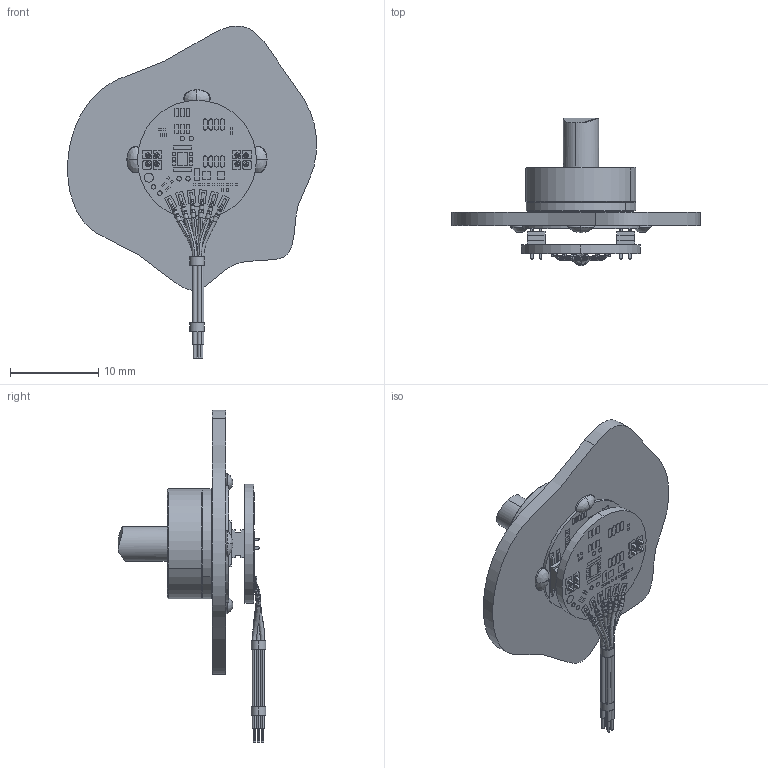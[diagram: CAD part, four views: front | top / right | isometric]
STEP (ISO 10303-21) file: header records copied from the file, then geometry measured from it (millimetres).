
FILE_DESCRIPTION (( 'STEP AP214' ), '1' );
FILE_NAME ('VL-13 ICD.STEP', '2025-02-18T12:47:03', ( '' ), ( '' ), 'SwSTEP 2.0', 'SolidWorks 2022', '' );
FILE_SCHEMA (( 'AUTOMOTIVE_DESIGN' ));
Length unit declared in the file: millimetre
Products named in the file (13): MP-03772; EA-00192; VL-13 cable-6-wires; VLP-13 Body sample; VL-13 ICD Glue tip; EA-00193; PB-00194_F-4 C-1; VL-13 ICD; VLP-13 Assy_With cable; PB-00193_Through holes soldering; PB-00192_F-4 C-1; PN-00208; VLP-13 Shaft sample
Assembly tree (16 placements, depth 4):
  VL-13 ICD
    VLP-13 Body sample
    VLP-13 Assy_With cable
      EA-00192
        PB-00192_F-4 C-1
      PN-00208  x2
      EA-00193
        PB-00193_Through holes soldering
      PB-00194_F-4 C-1
      MP-03772
      VL-13 cable-6-wires
    VLP-13 Shaft sample
    VL-13 ICD Glue tip  x4
Bounding box: 28.25 x 16.74 x 37.68 mm (x, y, z)
Volume: 1737.5 mm3; surface area: 3061.4 mm2
Topology: 35 solids, 35 shells, 2454 faces, 6107 edges, 4038 vertices
Faces by surface type: plane 1349, cylinder 997, torus 50, bspline 40, cone 18
Entity records: 98275 total; most frequent: CARTESIAN_POINT 17140, DIRECTION 12384, ORIENTED_EDGE 11536, EDGE_CURVE 5768, AXIS2_PLACEMENT_3D 4423, VERTEX_POINT 3828, LINE 3538, VECTOR 3538
